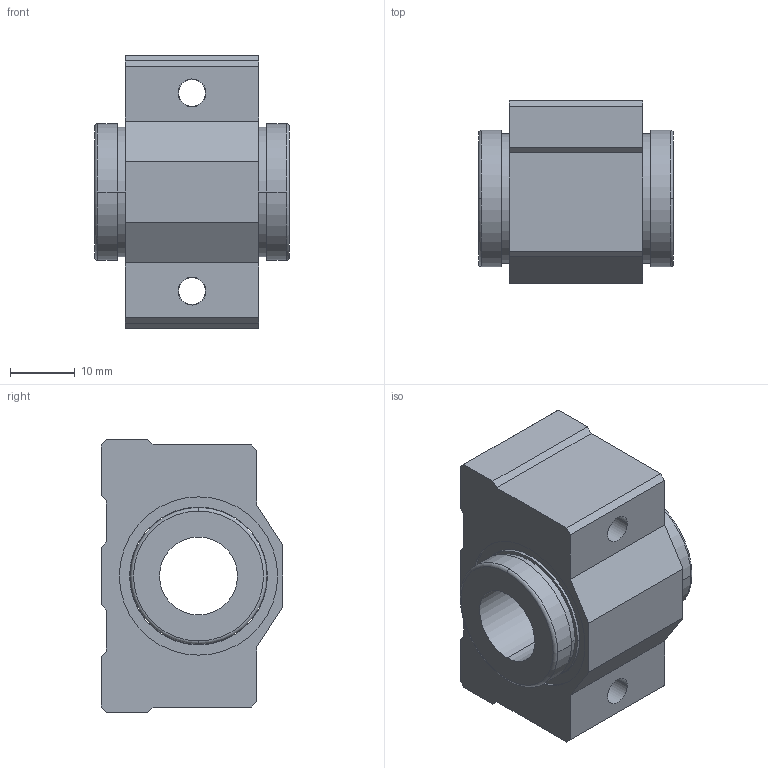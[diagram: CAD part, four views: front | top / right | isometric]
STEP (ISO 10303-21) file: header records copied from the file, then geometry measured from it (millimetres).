
FILE_DESCRIPTION(('FreeCAD Model'),'2;1');
FILE_NAME('Open CASCADE Shape Model','2021-05-03T09:02:37',('Author'),( ''),'Open CASCADE STEP processor 7.5','FreeCAD','Unknown');
FILE_SCHEMA(('AUTOMOTIVE_DESIGN { 1 0 10303 214 1 1 1 1 }'));
Length unit declared in the file: millimetre
Products named in the file (1): ball_bearing_sc12suu
Bounding box: 30 x 28 x 42 mm (x, y, z)
Volume: 19996.3 mm3; surface area: 9692.4 mm2
Topology: 2 solids, 2 shells, 70 faces, 516 edges, 1490 vertices
Faces by surface type: plane 36, cylinder 26, cone 4, torus 4
Entity records: 9443 total; most frequent: CARTESIAN_POINT 2619, DIRECTION 1179, LINE 596, VECTOR 596, GEOMETRIC_CURVE_SET 345, ORIENTED_EDGE 344, PCURVE 344, DEFINITIONAL_REPRESENTATION 344
